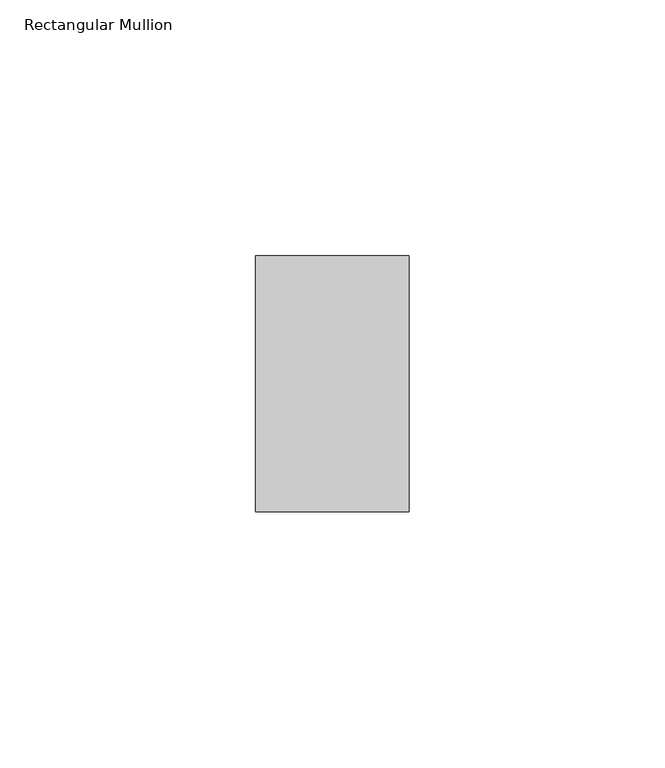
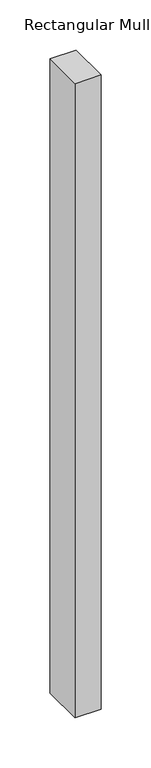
"""IFC4 building model written with IfcOpenShell, lengths in millimetres: member geometry, Rectangular Mullion : ARQ_REJA_MULL_50x30mm."""

from ifc_helpers import new_model, si_unit, frame, origin, place, context, project, spatial, polyline, outline, extrude, source, transform, mapped, element, save


def rectangular_mullion_14b3989e(model_context):
    return source(origin(), model_context, "Body", "SweptSolid", [
        extrude(outline(polyline([(0.0, 25.0), (0.0, -25.0), (-30.0, -25.0), (-30.0, 25.0), (0.0, 25.0)])), frame((0.0, 0.0, -773.5372456), z_axis=(0.0, 0.0, 1.0), x_axis=(1.0, 0.0, 0.0)), (0.0, 0.0, 1.0), 773.5372456),
    ])


if __name__ == "__main__":
    model = new_model("IFC4")
    model_context = context("Model", 3, world=origin())
    ifc_project = project(units=[si_unit("LENGTHUNIT", "METRE", prefix="MILLI")], contexts=[model_context])
    site = spatial("IfcSite", under=ifc_project)
    building = spatial("IfcBuilding", under=site)
    placement = place(None, origin())
    rectangular_mullion_shape = rectangular_mullion_14b3989e(model_context)
    element("IfcMember", 1, ObjectType="Rectangular Mullion : ARQ_REJA_MULL_50x30mm", at=placement, inside=building, context=model_context, shape_type="MappedRepresentation", body=[
        mapped(rectangular_mullion_shape, transform((0.0, 0.0, 0.0), x_axis=(1.0, 0.0, 0.0), y_axis=(0.0, 1.0, 0.0), z_axis=(0.0, 0.0, 1.0))),
    ])
    save(model, "model.ifc")
